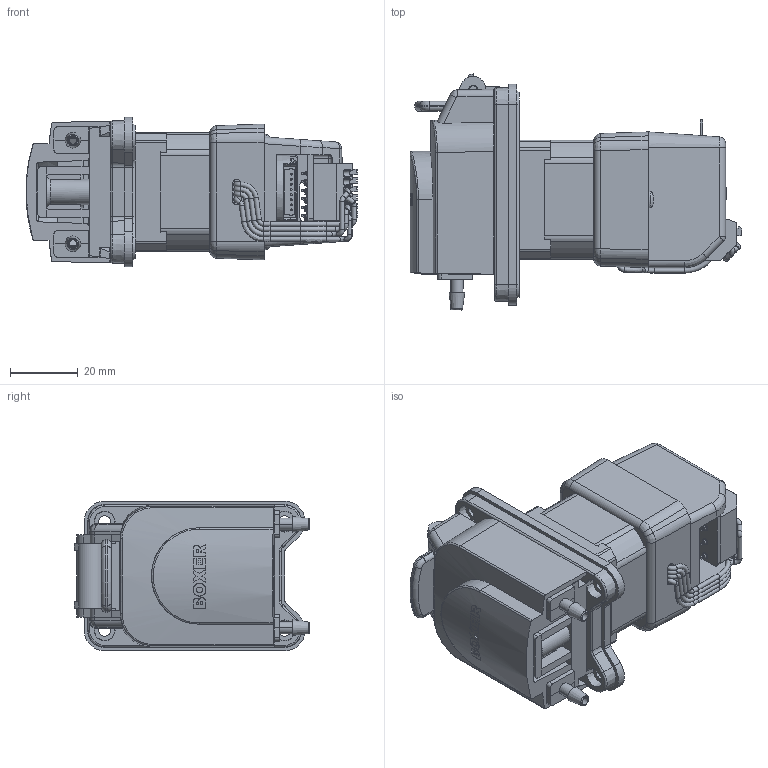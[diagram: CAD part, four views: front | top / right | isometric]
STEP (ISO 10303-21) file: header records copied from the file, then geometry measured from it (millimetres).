
FILE_DESCRIPTION (( 'STEP AP203' ), '1' );
FILE_NAME ('9862.9x0_9QQ+Drv+Enc.STEP', '2024-06-14T18:04:05', ( '' ), ( '' ), 'SwSTEP 2.0', 'SolidWorks 2021', '' );
FILE_SCHEMA (( 'CONFIG_CONTROL_DESIGN' ));
Length unit declared in the file: millimetre
Products named in the file (12): 9862.9x0_9QQ+Drv+Enc; 9000.3049_Rev00_PicoHoodEncoder; 9000.3011_Rev01_9QQFrontCover; K0967_15KS_2.5x24_DowelPin; 1678_Soyo_NU35STH36-1004A_Encoder_Pico Long Leads; 3937_Rev00_3x5_Tube_Connector; pan head cross recess screw_iso_ISO 7045 - M3 x 8 - Z - 8C; 9000.3013_Rev00_Lever; 9000.3048_Rev02_9QQ_GasketForCombiPlate; 15000.5009_Rev_PicoDriverAssy; 9000.3045_Rev00_9QQ_StepperPlateCombi_Shaped; 9000.3014_Rev01_9QQRollerSupport_Version B
Assembly tree (15 placements, depth 2):
  9862.9x0_9QQ+Drv+Enc
    9000.3045_Rev00_9QQ_StepperPlateCombi_Shaped
    1678_Soyo_NU35STH36-1004A_Encoder_Pico Long Leads
    9000.3049_Rev00_PicoHoodEncoder
    15000.5009_Rev_PicoDriverAssy
    pan head cross recess screw_iso_ISO 7045 - M3 x 8 - Z - 8C  x4
    9000.3013_Rev00_Lever
    9000.3014_Rev01_9QQRollerSupport_Version B
    9000.3011_Rev01_9QQFrontCover
    K0967_15KS_2.5x24_DowelPin
    3937_Rev00_3x5_Tube_Connector  x2
    9000.3048_Rev02_9QQ_GasketForCombiPlate
Bounding box: 97.65 x 69.42 x 44 mm (x, y, z)
Volume: 101757.7 mm3; surface area: 61708.2 mm2
Topology: 23 solids, 31 shells, 3006 faces, 7592 edges, 4738 vertices
Faces by surface type: plane 1545, cylinder 657, bspline 354, cone 199, torus 171, sphere 80
Full cylindrical faces by diameter (mm): 0.457 x1, 0.5 x16, 0.61 x32, 0.65 x5, 0.857 x4, 0.889 x11, 1 x6, 1.2 x2, 1.4 x25, 2 x5, 2.4 x2, 2.5 x12, 2.6 x1, 2.95 x2, 3 x6, 3.2 x4, 3.5 x9, 4 x3, 5 x5, 5.12 x2, 5.2 x1, 5.6 x4, 5.8 x4, 6 x1, 7 x1, 7.5 x1, 10 x1, 12 x1, 22 x2, 22.2 x1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
Entity records: 96287 total; most frequent: CARTESIAN_POINT 31026, ORIENTED_EDGE 13654, DIRECTION 12325, EDGE_CURVE 6827, VERTEX_POINT 4419, AXIS2_PLACEMENT_3D 4308, LINE 3709, VECTOR 3709
